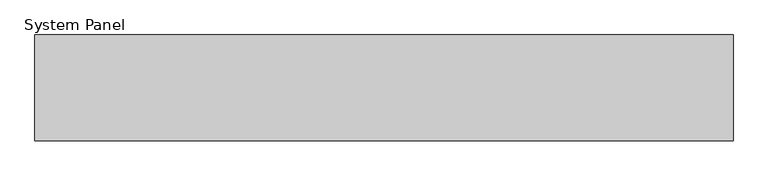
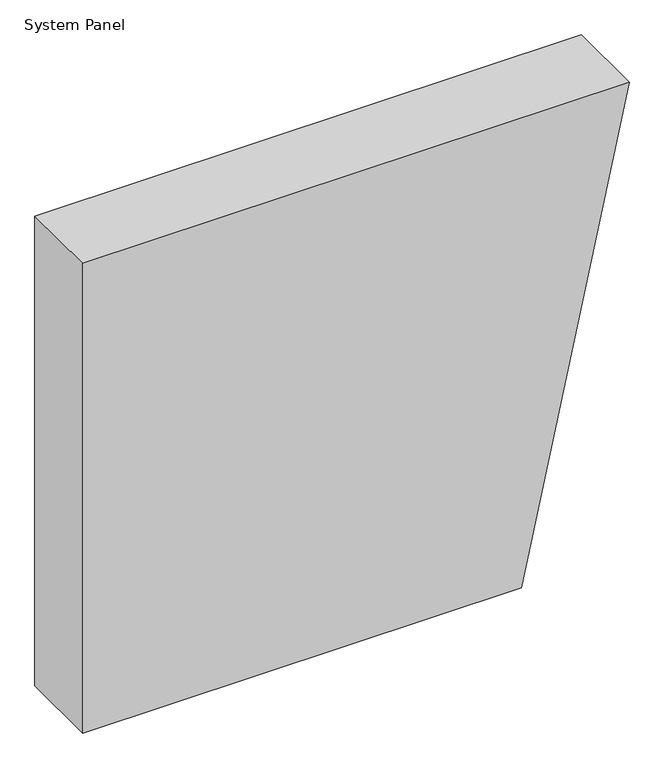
"""IFC4 building model written with IfcOpenShell, lengths in millimetres: plate geometry, System Panel : Equitilt 200mm Horizontal - Plain RHEA - EPS-FR."""

from ifc_helpers import new_model, si_unit, frame, origin, place, context, project, spatial, polyline, outline, extrude, source, transform, mapped, element, save


def system_panel_6f0eb11b(model_context):
    return source(origin(), model_context, "Body", "SweptSolid", [
        extrude(outline(polyline([(0.0, -660.8716619), (0.0, 400.0), (1200.0, 660.8716619), (1200.0, -660.8716619), (0.0, -660.8716619)])), frame((0.0, -200.0, 0.0), z_axis=(0.0, 1.0, 0.0), x_axis=(0.0, 0.0, 1.0)), (0.0, 0.0, 1.0), 200.0),
    ])


if __name__ == "__main__":
    model = new_model("IFC4")
    model_context = context("Model", 3, world=origin())
    ifc_project = project(units=[si_unit("LENGTHUNIT", "METRE", prefix="MILLI")], contexts=[model_context])
    site = spatial("IfcSite", under=ifc_project)
    building = spatial("IfcBuilding", under=site)
    placement = place(None, origin())
    system_panel_shape = system_panel_6f0eb11b(model_context)
    element("IfcPlate", 1, ObjectType="System Panel : Equitilt 200mm Horizontal - Plain RHEA - EPS-FR", at=placement, inside=building, context=model_context, shape_type="MappedRepresentation", body=[
        mapped(system_panel_shape, transform((0.0, 0.0, 0.0), x_axis=(1.0, 0.0, 0.0), y_axis=(0.0, 1.0, 0.0), z_axis=(0.0, 0.0, 1.0))),
    ])
    save(model, "model.ifc")
